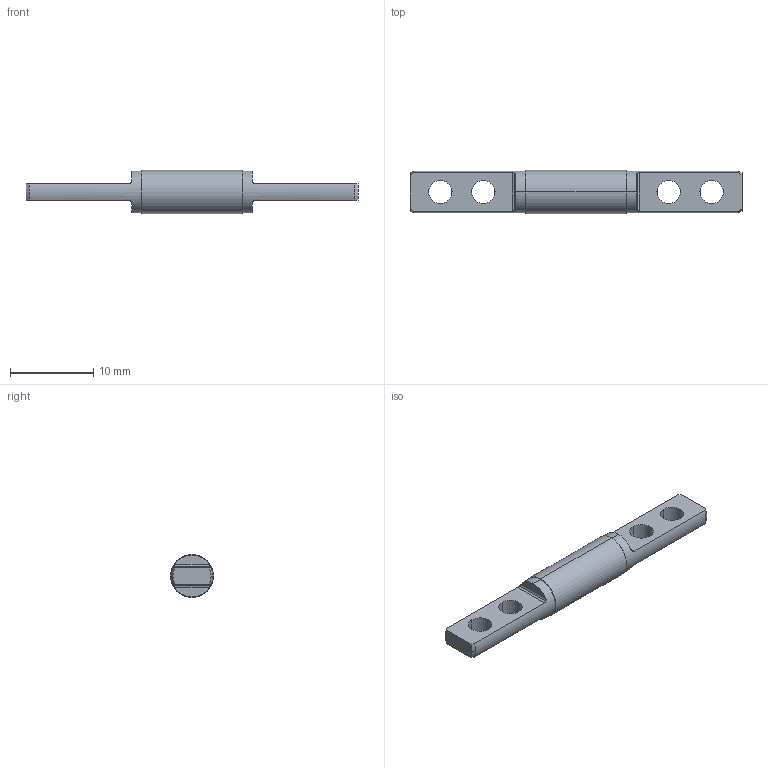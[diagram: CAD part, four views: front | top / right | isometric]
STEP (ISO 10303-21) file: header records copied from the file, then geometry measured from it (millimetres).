
FILE_DESCRIPTION(('STEP AP214'),'1');
FILE_NAME('C:/Users/HAN/Desktop/0500-0501-HNG Rev 0_0.stp','2015-01-05T16:18:38',(' '),(' '),'Spatial InterOp 3D',' ',' ');
FILE_SCHEMA(('automotive_design'));
Length unit declared in the file: inch
Products named in the file (3): 0500-0501-SHA Rev 0_0; 0500-0501-BND Rev 0_0
Bounding box: 39.83 x 5.17 x 5.17 mm (x, y, z)
Volume: 495.9 mm3; surface area: 934.6 mm2
Topology: 3 solids, 3 shells, 62 faces, 152 edges, 100 vertices
Faces by surface type: cylinder 32, plane 18, cone 12
Entity records: 2458 total; most frequent: CARTESIAN_POINT 413, DIRECTION 330, ORIENTED_EDGE 304, EDGE_CURVE 152, AXIS2_PLACEMENT_3D 137, VERTEX_POINT 100, EDGE_LOOP 76, CIRCLE 72
